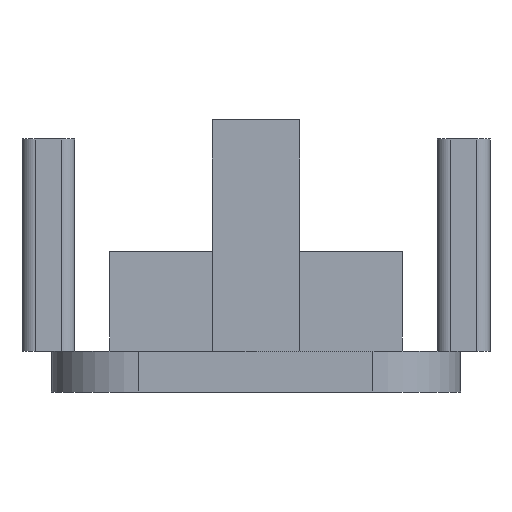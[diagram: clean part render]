
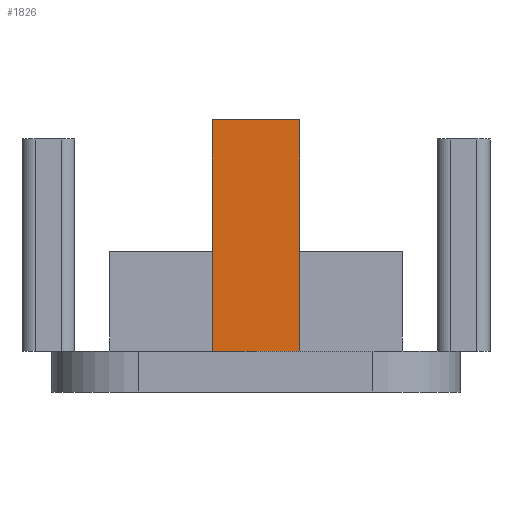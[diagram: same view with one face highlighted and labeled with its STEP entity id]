
A CAD part, left-side view. The second image highlights one B-rep face of the part: STEP entity #1826.
In plain terms, the highlighted planar face has unit normal (-1, 0, 0).
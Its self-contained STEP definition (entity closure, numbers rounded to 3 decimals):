
#138=FACE_OUTER_BOUND('',#236,.T.);
#236=EDGE_LOOP('',(#1283,#1284,#1285,#1286));
#391=LINE('',#2718,#603);
#392=LINE('',#2720,#604);
#393=LINE('',#2722,#605);
#394=LINE('',#2723,#606);
#603=VECTOR('',#2177,10.);
#604=VECTOR('',#2178,10.);
#605=VECTOR('',#2179,10.);
#606=VECTOR('',#2180,10.);
#795=VERTEX_POINT('',#2716);
#796=VERTEX_POINT('',#2717);
#797=VERTEX_POINT('',#2719);
#798=VERTEX_POINT('',#2721);
#991=EDGE_CURVE('',#795,#796,#391,.T.);
#992=EDGE_CURVE('',#797,#795,#392,.T.);
#993=EDGE_CURVE('',#798,#797,#393,.T.);
#994=EDGE_CURVE('',#798,#796,#394,.T.);
#1283=ORIENTED_EDGE('',*,*,#991,.F.);
#1284=ORIENTED_EDGE('',*,*,#992,.F.);
#1285=ORIENTED_EDGE('',*,*,#993,.F.);
#1286=ORIENTED_EDGE('',*,*,#994,.T.);
#1756=PLANE('',#1938);
#1826=ADVANCED_FACE('',(#138),#1756,.F.);
#1938=AXIS2_PLACEMENT_3D('',#2715,#2175,#2176);
#2175=DIRECTION('center_axis',(1.,0.,0.));
#2176=DIRECTION('ref_axis',(0.,0.,-1.));
#2177=DIRECTION('',(0.,1.,0.));
#2178=DIRECTION('',(0.,0.,-1.));
#2179=DIRECTION('',(0.,-1.,0.));
#2180=DIRECTION('',(0.,0.,-1.));
#2715=CARTESIAN_POINT('Origin',(-10.9,-47.,-6.955));
#2716=CARTESIAN_POINT('',(-10.9,-48.5,-10.9));
#2717=CARTESIAN_POINT('',(-10.9,-45.5,-10.9));
#2718=CARTESIAN_POINT('',(-10.9,-47.,-10.9));
#2719=CARTESIAN_POINT('',(-10.9,-48.5,-3.));
#2720=CARTESIAN_POINT('',(-10.9,-48.5,-6.955));
#2721=CARTESIAN_POINT('',(-10.9,-45.5,-3.));
#2722=CARTESIAN_POINT('',(-10.9,-47.,-3.));
#2723=CARTESIAN_POINT('',(-10.9,-45.5,-6.955));
